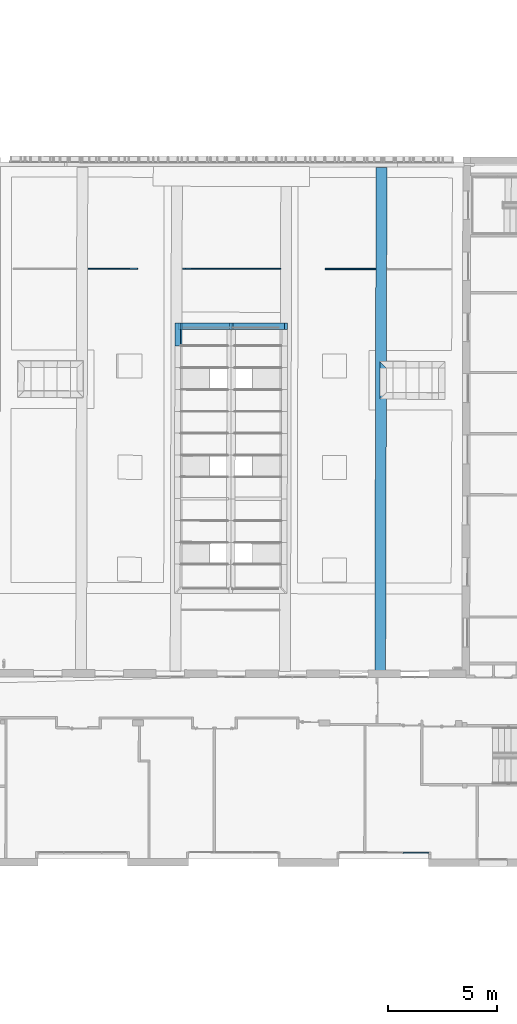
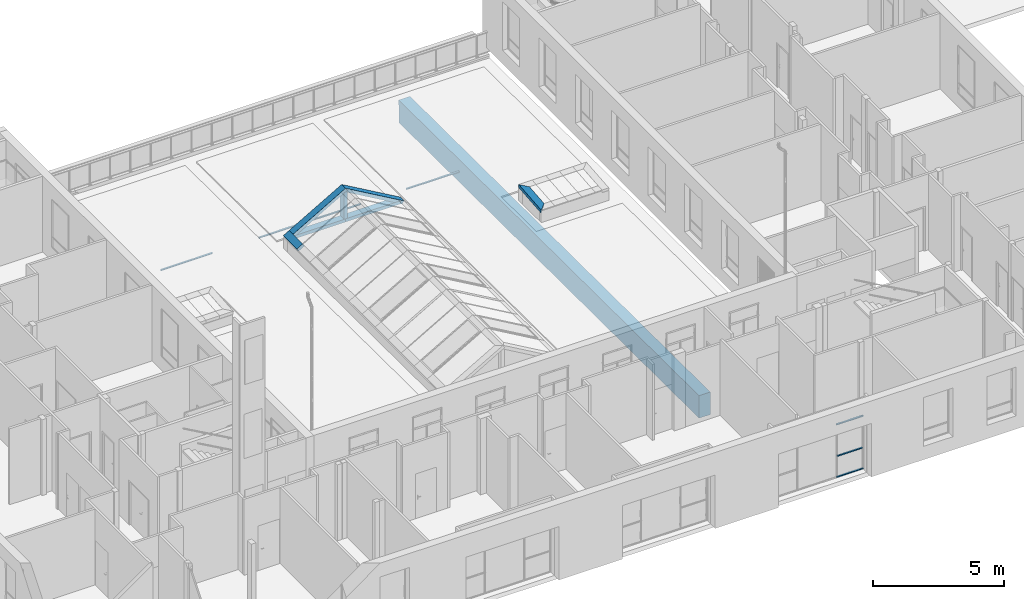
# One storey, part 12 of 101: 10 members, 4 beams, 4 elements without a shape of their own.
"""IFC2X3 building model written with IfcOpenShell, lengths in metres."""

from ifc_helpers import new_model, entity, si_unit, converted_unit, derived_unit, direction, frame, frame_2d, origin, origin_2d_with_axis, place, context, subcontext, project, spatial, polyline, rectangle, outline, extrude, source, transform, mapped, material, type_object, type_shapes, element, aggregate, save


model = new_model("IFC2X3")

# Units and contexts
model_context = context("Model", 3, precision=1e-05, world=origin(), true_north=direction((6.123233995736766e-17, 1.0)))
body_context = subcontext(model_context, "Body", "Model", "MODEL_VIEW")
ifc_project = project(units=[si_unit("LENGTHUNIT", "METRE"), si_unit("AREAUNIT", "SQUARE_METRE"), converted_unit("PLANEANGLEUNIT", "DEGREE", entity("IfcPlaneAngleMeasure", 0.017453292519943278), si_unit("PLANEANGLEUNIT", "RADIAN"), dimensions=[0, 0, 0, 0, 0, 0, 0]), derived_unit("THERMALTRANSMITTANCEUNIT", [(si_unit("MASSUNIT", "GRAM", prefix="KILO"), 1), (si_unit("THERMODYNAMICTEMPERATUREUNIT", "KELVIN"), -1), (si_unit("TIMEUNIT", "SECOND"), -3)])], contexts=[model_context])

# Site, building, storey
site_placement = place(None, frame((1253.6752467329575, 2072.143113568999, 91.49999999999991), z_axis=(0.0, 0.0, 1.0), x_axis=(0.7237211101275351, 0.6900925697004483, 0.0)))
site = spatial("IfcSite", under=ifc_project, at=site_placement, Name="Surface", CompositionType="ELEMENT")
building_placement = place(site_placement, origin())
building = spatial("IfcBuilding", under=site, at=building_placement, CompositionType="ELEMENT")
storey_placement = place(building_placement, origin())
storey = spatial("IfcBuildingStorey", under=building, at=storey_placement, Name="0- Rdc", CompositionType="ELEMENT", Elevation=-5.764692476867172e-13)

# Curtain wall, members
curtain_wall_type_1 = type_object("IfcCurtainWallType", Name="Mur-rideau:Menuiserie Ext 1F+1OB VERTIC", PredefinedType="NOTDEFINED")
curtain_wall_1_placement = place(storey_placement, origin())
curtain_wall_1 = element("IfcCurtainWall", 1, at=curtain_wall_1_placement, inside=storey, type_object=curtain_wall_type_1, Name="Mur-rideau:Menuiserie Ext 1F+1OB VERTIC", ObjectType="Mur-rideau:Menuiserie Ext 1F+1OB VERTIC")
ifc_material_1 = material(Name="OMD_Aluminium Men Ext")
member_type_1 = type_object("IfcMemberType", Name="Meneau rectangulaire:50x50", PredefinedType="MULLION", material=ifc_material_1)
shared_shape_1 = source(origin(), body_context, "Body", "SweptSolid", [
    extrude(rectangle(XDim=0.05, YDim=0.05, at=origin_2d_with_axis()), frame((-0.025, 0.0, -1.174999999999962), z_axis=(0.0, 0.0, 1.0), x_axis=(-1.0, 0.0, 0.0)), (0.0, 0.0, 1.0), 1.1749999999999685),
])
type_shapes(member_type_1, [shared_shape_1])
member_1_placement = place(curtain_wall_1_placement, frame((168.50080570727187, -18.526103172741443, 0.0), z_axis=(0.7228702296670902, -0.6909838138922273, 0.0), x_axis=(0.0, 0.0, -1.0)))
member_1 = element("IfcMember", 2, at=member_1_placement, type_object=member_type_1, material=ifc_material_1, Name="Meneau rectangulaire:50x50", ObjectType="Meneau rectangulaire:50x50", context=body_context, shape_type="MappedRepresentation", body=[
    mapped(shared_shape_1, transform((0.0, 0.0, 0.0), scale=1.0)),
])
member_type_2 = type_object("IfcMemberType", Name="Meneau rectangulaire:50x50", PredefinedType="MULLION", material=ifc_material_1)
shared_shape_2 = source(origin(), body_context, "Body", "SweptSolid", [
    extrude(rectangle(XDim=0.05, YDim=0.05, at=origin_2d_with_axis()), frame((0.0, 0.0, -1.0999999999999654), z_axis=(0.0, 0.0, 1.0), x_axis=(-1.0, 0.0, 0.0)), (0.0, 0.0, 1.0), 1.0999999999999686),
])
type_shapes(member_type_2, [shared_shape_2])
member_2_placement = place(curtain_wall_1_placement, frame((167.66950494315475, -17.731471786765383, 1.0), z_axis=(-0.7228702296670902, 0.6909838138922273, 0.0), x_axis=(0.0, 0.0, 1.0)))
member_2 = element("IfcMember", 3, at=member_2_placement, type_object=member_type_2, material=ifc_material_1, Name="Meneau rectangulaire:50x50", ObjectType="Meneau rectangulaire:50x50", context=body_context, shape_type="MappedRepresentation", body=[
    mapped(shared_shape_2, transform((0.0, 0.0, 0.0), scale=1.0)),
])
member_type_3 = type_object("IfcMemberType", Name="Meneau rectangulaire:50x50", PredefinedType="MULLION", material=ifc_material_1)
shared_shape_3 = source(origin(), body_context, "Body", "SweptSolid", [
    extrude(rectangle(XDim=0.05, YDim=0.049999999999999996, at=origin_2d_with_axis()), frame((-0.025, 0.0, -1.174999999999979), z_axis=(0.0, 0.0, 1.0), x_axis=(-1.0, 0.0, 0.0)), (0.0, 0.0, 1.0), 1.1749999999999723),
])
type_shapes(member_type_3, [shared_shape_3])
member_3_placement = place(curtain_wall_1_placement, frame((167.6514331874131, -17.71419719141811, 2.4999999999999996), z_axis=(-0.7228702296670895, 0.6909838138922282, 0.0), x_axis=(0.0, 0.0, 1.0)))
member_3 = element("IfcMember", 4, at=member_3_placement, type_object=member_type_3, material=ifc_material_1, Name="Meneau rectangulaire:50x50", ObjectType="Meneau rectangulaire:50x50", context=body_context, shape_type="MappedRepresentation", body=[
    mapped(shared_shape_3, transform((0.0, 0.0, 0.0), scale=1.0)),
])
aggregate(curtain_wall_1, [member_1, member_2, member_3])

# Beams
ifc_material_2 = material(Name="OMD_beton brut")
beam_type_1 = type_object("IfcBeamType", Name="ART-Béton - Poutre rectangulaire:Po 50x105", PredefinedType="BEAM")
beam_1_placement = place(storey_placement, frame((172.61512194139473, -10.99404586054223, -0.7525), z_axis=(0.006163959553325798, 0.006430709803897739, 0.9999603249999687), x_axis=(0.6919478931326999, 0.7218924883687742, -0.008907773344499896)))
element("IfcBeam", 5, at=beam_1_placement, inside=storey, type_object=beam_type_1, material=ifc_material_2, Name="ART-Béton - Poutre rectangulaire:Po 50x105", ObjectType="ART-Béton - Poutre rectangulaire:Po 50x105", context=body_context, shape_type="SweptSolid", body=[
    extrude(rectangle(XDim=1.0500000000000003, YDim=0.5000000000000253, at=frame_2d((1.6653345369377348e-16, -2.2246093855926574e-14), x_axis=(1.0, 0.0))), frame((0.0, 0.0, -0.5250000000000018), z_axis=(1.0, 0.0, 0.0), x_axis=(0.0, 0.0, -1.0)), (0.0, 0.0, 1.0), 23.095882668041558),
])
ifc_material_3 = material(Name="RAL 7016 - Anthracite Grey")
beam_type_2 = type_object("IfcBeamType", Name="ART-Béton - Poutre rectangulaire:Po 5x5 ht acier", PredefinedType="BEAM")
beam_2_placement = place(storey_placement, frame((175.67142864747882, 11.600066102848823, -1.453231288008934), z_axis=(-5.943588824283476e-06, 5.681801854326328e-06, 1.0), x_axis=(0.722846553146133, -0.6910085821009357, 8.222476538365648e-06)))
element("IfcBeam", 6, at=beam_2_placement, inside=storey, type_object=beam_type_2, material=ifc_material_3, Name="ART-Béton - Poutre rectangulaire:Po 5x5 ht acier", ObjectType="ART-Béton - Poutre rectangulaire:Po 5x5 ht acier", context=body_context, shape_type="SweptSolid", body=[
    extrude(rectangle(XDim=0.04999999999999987, YDim=0.049999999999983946, at=frame_2d((0.0, 2.34708086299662e-15), x_axis=(1.0, 0.0))), frame((0.0, 0.0, -0.024999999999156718), z_axis=(1.0, 0.0, 0.0), x_axis=(0.0, 0.0, -1.0)), (0.0, 0.0, 1.0), 2.2706223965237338),
])
beam_3_placement = place(storey_placement, frame((178.80190890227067, 8.607468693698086, -1.453231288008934), z_axis=(-5.043469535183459e-06, 4.8213285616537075e-06, 1.0), x_axis=(0.722846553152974, -0.691008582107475, 6.977233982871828e-06)))
element("IfcBeam", 7, at=beam_3_placement, inside=storey, type_object=beam_type_2, material=ifc_material_3, Name="ART-Béton - Poutre rectangulaire:Po 5x5 ht acier", ObjectType="ART-Béton - Poutre rectangulaire:Po 5x5 ht acier", context=body_context, shape_type="SweptSolid", body=[
    extrude(rectangle(XDim=0.049999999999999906, YDim=0.050000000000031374, at=frame_2d((0.0, -7.8236028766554e-16), x_axis=(1.0, 0.0))), frame((0.0, 0.0, -0.024999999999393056), z_axis=(1.0, 0.0, 0.0), x_axis=(0.0, 0.0, -1.0)), (0.0, 0.0, 1.0), 4.484299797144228),
])
beam_4_placement = place(storey_placement, frame((183.51739546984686, 4.099677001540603, -1.453218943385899), z_axis=(-5.895356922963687e-06, 5.635694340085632e-06, 1.0), x_axis=(0.7228465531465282, -0.691008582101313, 8.155751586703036e-06)))
element("IfcBeam", 8, at=beam_4_placement, inside=storey, type_object=beam_type_2, material=ifc_material_3, Name="ART-Béton - Poutre rectangulaire:Po 5x5 ht acier", ObjectType="ART-Béton - Poutre rectangulaire:Po 5x5 ht acier", context=body_context, shape_type="SweptSolid", body=[
    extrude(rectangle(XDim=0.049999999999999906, YDim=0.04999999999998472, at=frame_2d((-1.3530843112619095e-16, 2.3517646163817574e-14), x_axis=(1.0, 0.0))), frame((0.0, 0.0, -0.024999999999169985), z_axis=(1.0, 0.0, 0.0), x_axis=(0.0, 0.0, -1.0)), (0.0, 0.0, 1.0), 2.3227026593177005),
])

# Roof, member
curtain_wall_type_2 = type_object("IfcCurtainWallType", Name="Vitres inclinées:Toit en verre 1 m x 2 m", PredefinedType="NOTDEFINED")
roof_1_placement = place(storey_placement, origin())
roof_1 = element("IfcRoof", 9, at=roof_1_placement, inside=storey, type_object=curtain_wall_type_2, Name="Vitres inclinées:Toit en verre 1 m x 2 m", ObjectType="Vitres inclinées:Toit en verre 1 m x 2 m", ShapeType="NOTDEFINED")
ifc_material_4 = material(Name="OMD_Aluminium blanc")
member_type_4 = type_object("IfcMemberType", Name="Meneau rectangulaire:22x300", PredefinedType="MULLION", material=ifc_material_4)
shared_shape_4 = source(origin(), body_context, "Body", "SweptSolid", [
    extrude(outline(polyline([(-0.8673349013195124, -0.15), (0.8672827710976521, -0.14999999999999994), (0.5672819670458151, 0.15), (-0.5672298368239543, 0.14999999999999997), (-0.8673349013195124, -0.15)])), frame((-0.15, -0.010000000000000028, -0.8673349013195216), z_axis=(0.0, 1.0, 0.0), x_axis=(0.0, 0.0, -1.0)), (0.0, 0.0, 1.0), 0.15000000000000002),
])
type_shapes(member_type_4, [shared_shape_4])
member_4_placement = place(roof_1_placement, frame((181.2159484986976, -1.9487547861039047, 0.25979977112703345), z_axis=(-0.6886074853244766, -0.7198774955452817, -0.0871557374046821), x_axis=(-0.7226273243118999, 0.6912378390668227, 2.318564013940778e-07)))
member_4 = element("IfcMember", 10, at=member_4_placement, type_object=member_type_4, material=ifc_material_4, Name="Meneau rectangulaire:22x300", ObjectType="Meneau rectangulaire:22x300", context=body_context, shape_type="MappedRepresentation", body=[
    mapped(shared_shape_4, transform((0.0, 0.0, 0.0), scale=1.0)),
])
aggregate(roof_1, [member_4])

# Roof, members
roof_2_placement = place(storey_placement, origin())
roof_2 = element("IfcRoof", 11, at=roof_2_placement, inside=storey, type_object=curtain_wall_type_2, Name="Vitres inclinées:Toit en verre 1 m x 2 m", ObjectType="Vitres inclinées:Toit en verre 1 m x 2 m", ShapeType="NOTDEFINED")
member_type_5 = type_object("IfcMemberType", Name="Meneau rectangulaire:22x300", PredefinedType="MULLION", material=ifc_material_4)
shared_shape_5 = source(origin(), body_context, "Body", "SweptSolid", [
    extrude(rectangle(XDim=0.29999999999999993, YDim=0.15000000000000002, at=frame_2d((-1.3877787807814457e-17, 0.0), x_axis=(1.0, 0.0))), frame((-0.15000000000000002, 0.06499999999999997, -1.041550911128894), z_axis=(0.0, 0.0, 1.0), x_axis=(-1.0, 0.0, 0.0)), (0.0, 0.0, 1.0), 1.0415509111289),
])
type_shapes(member_type_5, [shared_shape_5])
member_5_placement = place(roof_2_placement, frame((176.11272215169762, 6.299822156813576, 0.24589942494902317), z_axis=(-0.690983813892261, -0.7228702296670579, 0.0), x_axis=(-0.6260239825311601, 0.5984095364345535, -0.5000000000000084)))
member_5 = element("IfcMember", 12, at=member_5_placement, type_object=member_type_5, material=ifc_material_4, Name="Meneau rectangulaire:22x300", ObjectType="Meneau rectangulaire:22x300", context=body_context, shape_type="MappedRepresentation", body=[
    mapped(shared_shape_5, transform((0.0, 0.0, 0.0), scale=1.0)),
])
member_type_6 = type_object("IfcMemberType", Name="Meneau rectangulaire:22x300", PredefinedType="MULLION", material=ifc_material_4)
shared_shape_6 = source(origin(), body_context, "Body", "SweptSolid", [
    extrude(rectangle(XDim=0.29999999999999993, YDim=0.14999999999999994, at=frame_2d((-1.3877787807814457e-17, 0.0), x_axis=(1.0, 0.0))), frame((-0.14999999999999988, 0.06500000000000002, -2.6720484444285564), z_axis=(0.0, 0.0, 1.0), x_axis=(-1.0, 0.0, 0.0)), (0.0, 0.0, 1.0), 2.6720484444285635),
])
type_shapes(member_type_6, [shared_shape_6])
member_6_placement = place(roof_2_placement, frame((177.02022416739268, 6.8732054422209, 0.39589942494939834), z_axis=(-0.6260239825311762, 0.598409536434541, -0.5000000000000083), x_axis=(0.6909838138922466, 0.7228702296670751, 0.0)))
member_6 = element("IfcMember", 13, at=member_6_placement, type_object=member_type_6, material=ifc_material_4, Name="Meneau rectangulaire:22x300", ObjectType="Meneau rectangulaire:22x300", context=body_context, shape_type="MappedRepresentation", body=[
    mapped(shared_shape_6, transform((0.0, 0.0, 0.0), scale=1.0)),
])
member_type_7 = type_object("IfcMemberType", Name="Meneau rectangulaire:22x300", PredefinedType="MULLION", material=ifc_material_4)
shared_shape_7 = source(origin(), body_context, "Body", "SweptSolid", [
    extrude(rectangle(XDim=0.29999999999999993, YDim=0.15000000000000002, at=frame_2d((-1.3877787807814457e-17, 0.0), x_axis=(1.0, 0.0))), frame((-0.15000000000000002, 0.06499999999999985, -2.9720484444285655), z_axis=(0.0, 0.0, 1.0), x_axis=(-1.0, 0.0, 0.0)), (0.0, 0.0, 1.0), 2.972048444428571),
])
type_shapes(member_type_7, [shared_shape_7])
member_7_placement = place(roof_2_placement, frame((178.69299057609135, 5.274226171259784, 1.7319236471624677), z_axis=(-0.6260239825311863, 0.5984095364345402, 0.5000000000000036), x_axis=(0.6909838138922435, 0.722870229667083, 0.0)))
member_7 = element("IfcMember", 14, at=member_7_placement, type_object=member_type_7, material=ifc_material_4, Name="Meneau rectangulaire:22x300", ObjectType="Meneau rectangulaire:22x300", context=body_context, shape_type="MappedRepresentation", body=[
    mapped(shared_shape_7, transform((0.0, 0.0, 0.0), scale=1.0)),
])
aggregate(roof_2, [member_5, member_6, member_7])

# Curtain wall, members
curtain_wall_type_3 = type_object("IfcCurtainWallType", Name="Mur-rideau:Menuiserie Ext", PredefinedType="NOTDEFINED")
curtain_wall_2_placement = place(storey_placement, origin())
curtain_wall_2 = element("IfcCurtainWall", 15, at=curtain_wall_2_placement, inside=storey, type_object=curtain_wall_type_3, Name="Mur-rideau:Menuiserie Ext", ObjectType="Mur-rideau:Menuiserie Ext")
member_type_8 = type_object("IfcMemberType", Name="Meneau rectangulaire:300x22", PredefinedType="MULLION", material=ifc_material_4)
shared_shape_8 = source(origin(), body_context, "Body", "SweptSolid", [
    extrude(rectangle(XDim=0.14999999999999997, YDim=0.29999999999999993, at=origin_2d_with_axis()), frame((-0.07499999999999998, 0.06500000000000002, -2.4283445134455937), z_axis=(0.0, 0.0, 1.0), x_axis=(-1.0, 0.0, 0.0)), (0.0, 0.0, 1.0), 2.4283445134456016),
])
type_shapes(member_type_8, [shared_shape_8])
member_8_placement = place(curtain_wall_2_placement, frame((180.3042179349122, 3.436604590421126, 0.16472074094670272), z_axis=(0.7228702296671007, -0.6909838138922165, 0.0), x_axis=(0.0, 0.0, -1.0)))
member_8 = element("IfcMember", 16, at=member_8_placement, type_object=member_type_8, material=ifc_material_4, Name="Meneau rectangulaire:300x22", ObjectType="Meneau rectangulaire:300x22", context=body_context, shape_type="MappedRepresentation", body=[
    mapped(shared_shape_8, transform((0.0, 0.0, 0.0), scale=1.0)),
])
member_type_9 = type_object("IfcMemberType", Name="Meneau rectangulaire:300x22", PredefinedType="MULLION", material=ifc_material_4)
shared_shape_9 = source(origin(), body_context, "Body", "SweptSolid", [
    extrude(rectangle(XDim=0.14999999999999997, YDim=0.30000000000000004, at=frame_2d((0.0, -2.7755575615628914e-17), x_axis=(1.0, 0.0))), frame((-0.07499999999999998, 0.06500000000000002, -2.4406056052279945), z_axis=(0.0, 0.0, 1.0), x_axis=(-1.0, 0.0, 0.0)), (0.0, 0.0, 1.0), 2.4406056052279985),
])
type_shapes(member_type_9, [shared_shape_9])
member_9_placement = place(curtain_wall_2_placement, frame((178.54883997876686, 5.114551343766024, 0.16472074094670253), z_axis=(0.7228702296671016, -0.6909838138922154, 0.0), x_axis=(0.0, 0.0, -1.0)))
member_9 = element("IfcMember", 17, at=member_9_placement, type_object=member_type_9, material=ifc_material_4, Name="Meneau rectangulaire:300x22", ObjectType="Meneau rectangulaire:300x22", context=body_context, shape_type="MappedRepresentation", body=[
    mapped(shared_shape_9, transform((0.0, 0.0, 0.0), scale=1.0)),
])
member_type_10 = type_object("IfcMemberType", Name="Meneau rectangulaire:300x22", PredefinedType="MULLION", material=ifc_material_4)
shared_shape_10 = source(origin(), body_context, "Body", "SweptSolid", [
    extrude(rectangle(XDim=0.14999999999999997, YDim=0.29999999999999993, at=frame_2d((0.0, -1.3877787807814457e-17), x_axis=(1.0, 0.0))), frame((0.0, 0.06499999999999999, -1.2520053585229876), z_axis=(0.0, 0.0, 1.0), x_axis=(-1.0, 0.0, 0.0)), (0.0, 0.0, 1.0), 1.2520053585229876),
])
type_shapes(member_type_10, [shared_shape_10])
member_10_placement = place(curtain_wall_2_placement, frame((178.54883997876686, 5.11455134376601, 0.31472074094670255), z_axis=(0.0, 0.0, -1.0), x_axis=(-0.7228702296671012, 0.6909838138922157, 0.0)))
member_10 = element("IfcMember", 18, at=member_10_placement, type_object=member_type_10, material=ifc_material_4, Name="Meneau rectangulaire:300x22", ObjectType="Meneau rectangulaire:300x22", context=body_context, shape_type="MappedRepresentation", body=[
    mapped(shared_shape_10, transform((0.0, 0.0, 0.0), scale=1.0)),
])
aggregate(curtain_wall_2, [member_8, member_9, member_10])

save(model, "model.ifc")
